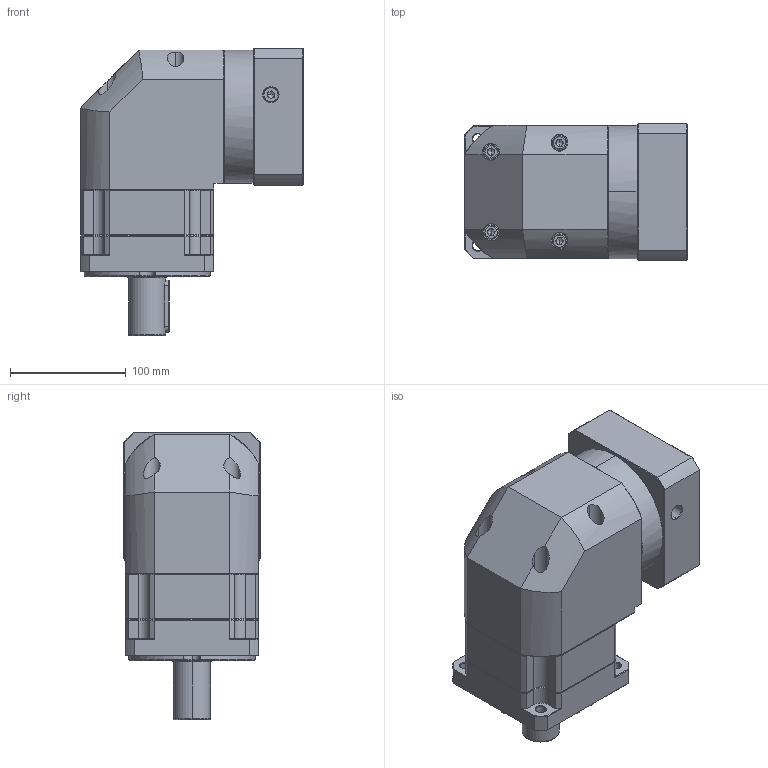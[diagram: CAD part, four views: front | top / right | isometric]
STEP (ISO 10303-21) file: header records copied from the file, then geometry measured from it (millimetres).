
FILE_DESCRIPTION (( 'STEP AP214' ), '1' );
FILE_NAME ('ZBR115A-D32-L1-P2-24-110-130-M8.step', '2023-08-26T12:36:55', ( '' ), ( '' ), 'SwSTEP 2.0', 'SolidWorks 2016', '' );
FILE_SCHEMA (( 'AUTOMOTIVE_DESIGN' ));
Length unit declared in the file: millimetre
Products named in the file (1): ZBR115A-D32-L1-P2-24-110-130-M8
Bounding box: 192.4 x 118 x 248 mm (x, y, z)
Volume: 2949648.1 mm3; surface area: 247703.6 mm2
Topology: 6 solids, 6 shells, 2380 faces, 6243 edges, 3967 vertices
Faces by surface type: plane 1139, cylinder 439, bspline 424, cone 370, torus 8
Entity records: 128382 total; most frequent: CARTESIAN_POINT 47176, ORIENTED_EDGE 12426, DIRECTION 9802, EDGE_CURVE 6213, LINE 3992, VECTOR 3992, VERTEX_POINT 3967, AXIS2_PLACEMENT_3D 2905
